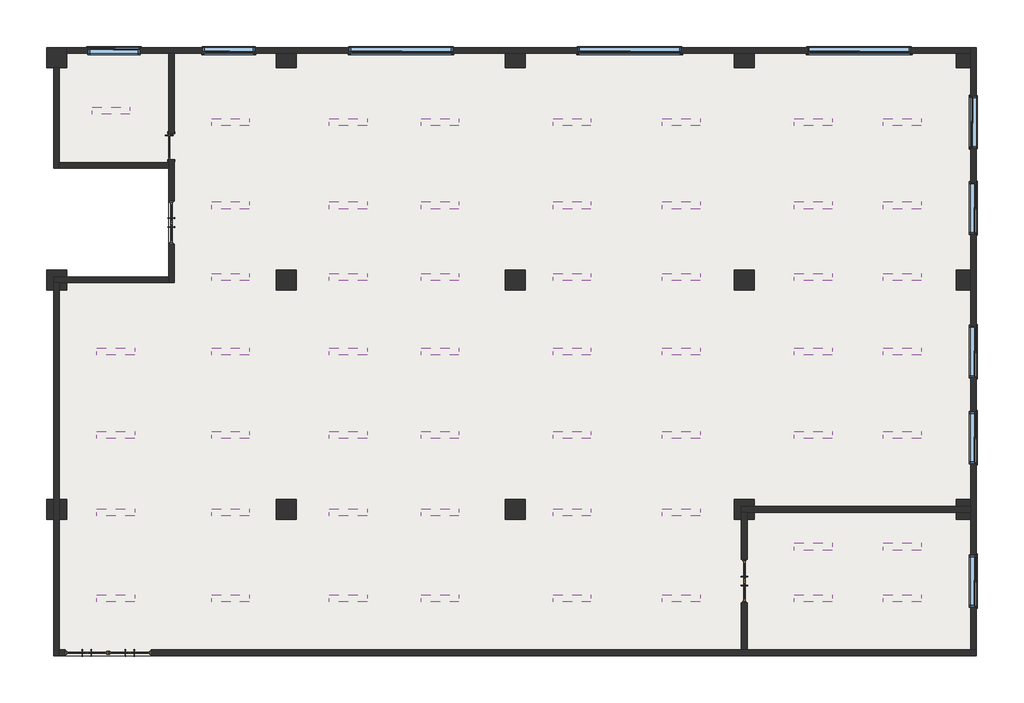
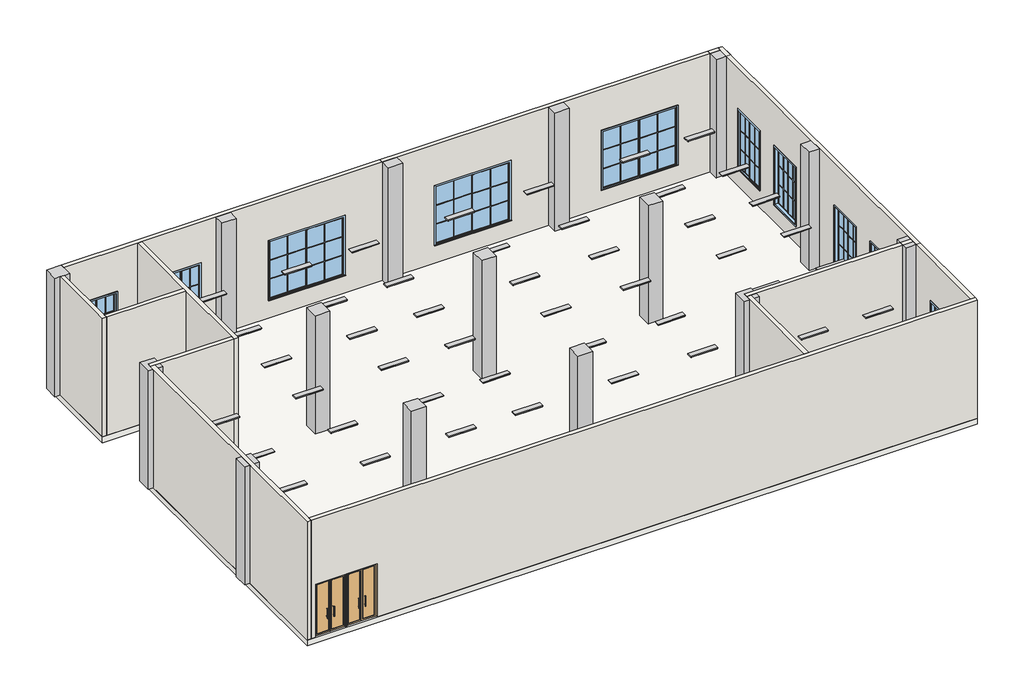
# One storey: 55 light fixtures, 15 columns, 10 walls, 10 windows, 5 doors, 1 slab.
"""IFC4 building model written with IfcOpenShell, lengths in millimetres."""

from ifc_helpers import new_model, si_unit, frame, origin, origin_with_axes, place, context, project, spatial, polyline, outline, extrude, faceted_brep, transform, mapped, element, save
from components import column_700_x_700mm_5b022033, door_1500_x_2700mm_e6651a72, door_900_x_2100mm_13c7b5d6, light_fixture_8ba9b709, window_1800_x3000mm_e18a544e, window_3600_x3000mm_248adb31

model = new_model("IFC4")

# Units and contexts
model_context = context("Model", 3, world=origin())
ifc_project = project(units=[si_unit("LENGTHUNIT", "METRE", prefix="MILLI")], contexts=[model_context])

# Site, building, storey
site = spatial("IfcSite", under=ifc_project)
building = spatial("IfcBuilding", under=site)
storey = spatial("IfcBuildingStorey", under=building, Name="标高 1", Elevation=0.0)

# Columns
placement = place(None, origin())
element("IfcColumn", 1, ObjectType="混凝土 - 矩形 - 柱 : 700 x 700mm", at=placement, inside=storey, context=model_context, shape_type="Brep", body=[
    faceted_brep([(-5936.1831848, 16216.5291826, 0.0), (-5936.1831848, 16016.5291826, 0.0), (-5936.1831848, 15516.5291826, 0.0), (-6186.1831848, 15516.5291826, 0.0), (-6386.1831848, 15516.5291826, 0.0), (-6636.1831848, 15516.5291826, 0.0), (-6636.1831848, 16216.5291826, 0.0), (-5936.1831848, 16216.5291826, 6000.0), (-5936.1831848, 16016.5291826, 6000.0), (-5936.1831848, 15516.5291826, 6000.0), (-6186.1831848, 15516.5291826, 6000.0), (-6386.1831848, 15516.5291826, 6000.0), (-6636.1831848, 15516.5291826, 6000.0), (-6636.1831848, 16216.5291826, 6000.0)], [[[0, 1, 2, 3, 4, 5, 6]], [[7, 8, 9, 2, 1, 0]], [[9, 10, 11, 12, 5, 4, 3, 2]], [[12, 13, 6, 5]], [[13, 7, 0, 6]], [[7, 13, 12, 11, 10, 9, 8]]]),
])
column_700_x_700mm_shape = column_700_x_700mm_5b022033(model_context)
element("IfcColumn", 2, ObjectType="混凝土 - 矩形 - 柱 : 700 x 700mm", at=placement, inside=storey, context=model_context, shape_type="MappedRepresentation", body=[
    mapped(column_700_x_700mm_shape, transform((9694.3292173, 15866.5291826, 0.0), x_axis=(1.0, 0.0, 0.0), y_axis=(0.0, 1.0, 0.0), z_axis=(0.0, 0.0, 1.0))),
])
element("IfcColumn", 3, ObjectType="混凝土 - 矩形 - 柱 : 700 x 700mm", at=placement, inside=storey, context=model_context, shape_type="MappedRepresentation", body=[
    mapped(column_700_x_700mm_shape, transform((17674.8416194, 15866.5291826, 0.0), x_axis=(1.0, 0.0, 0.0), y_axis=(0.0, 1.0, 0.0), z_axis=(0.0, 0.0, 1.0))),
])
element("IfcColumn", 4, ObjectType="混凝土 - 矩形 - 柱 : 700 x 700mm", at=placement, inside=storey, context=model_context, shape_type="MappedRepresentation", body=[
    mapped(column_700_x_700mm_shape, transform((25405.3540214, 15866.5291826, 0.0), x_axis=(1.0, 0.0, 0.0), y_axis=(0.0, 1.0, 0.0), z_axis=(0.0, 0.0, 1.0))),
])
element("IfcColumn", 5, ObjectType="混凝土 - 矩形 - 柱 : 700 x 700mm", at=placement, inside=storey, context=model_context, shape_type="MappedRepresentation", body=[
    mapped(column_700_x_700mm_shape, transform((-6286.1831848, 8118.9658746, 0.0), x_axis=(1.0, 0.0, 0.0), y_axis=(0.0, 1.0, 0.0), z_axis=(0.0, 0.0, 1.0))),
])
element("IfcColumn", 6, ObjectType="混凝土 - 矩形 - 柱 : 700 x 700mm", at=placement, inside=storey, context=model_context, shape_type="MappedRepresentation", body=[
    mapped(column_700_x_700mm_shape, transform((1713.8168152, 8118.9658746, 0.0), x_axis=(1.0, 0.0, 0.0), y_axis=(0.0, 1.0, 0.0), z_axis=(0.0, 0.0, 1.0))),
])
element("IfcColumn", 7, ObjectType="混凝土 - 矩形 - 柱 : 700 x 700mm", at=placement, inside=storey, context=model_context, shape_type="MappedRepresentation", body=[
    mapped(column_700_x_700mm_shape, transform((9694.3292173, 8118.9658746, 0.0), x_axis=(1.0, 0.0, 0.0), y_axis=(0.0, 1.0, 0.0), z_axis=(0.0, 0.0, 1.0))),
])
element("IfcColumn", 8, ObjectType="混凝土 - 矩形 - 柱 : 700 x 700mm", at=placement, inside=storey, context=model_context, shape_type="MappedRepresentation", body=[
    mapped(column_700_x_700mm_shape, transform((17674.8416194, 8118.9658746, 0.0), x_axis=(1.0, 0.0, 0.0), y_axis=(0.0, 1.0, 0.0), z_axis=(0.0, 0.0, 1.0))),
])
element("IfcColumn", 9, ObjectType="混凝土 - 矩形 - 柱 : 700 x 700mm", at=placement, inside=storey, context=model_context, shape_type="MappedRepresentation", body=[
    mapped(column_700_x_700mm_shape, transform((25405.3540214, 8118.9658746, 0.0), x_axis=(1.0, 0.0, 0.0), y_axis=(0.0, 1.0, 0.0), z_axis=(0.0, 0.0, 1.0))),
])
element("IfcColumn", 10, ObjectType="混凝土 - 矩形 - 柱 : 700 x 700mm", at=placement, inside=storey, context=model_context, shape_type="MappedRepresentation", body=[
    mapped(column_700_x_700mm_shape, transform((-6286.1831848, 118.9658746, 0.0), x_axis=(1.0, 0.0, 0.0), y_axis=(0.0, 1.0, 0.0), z_axis=(0.0, 0.0, 1.0))),
])
element("IfcColumn", 11, ObjectType="混凝土 - 矩形 - 柱 : 700 x 700mm", at=placement, inside=storey, context=model_context, shape_type="MappedRepresentation", body=[
    mapped(column_700_x_700mm_shape, transform((1713.8168152, 118.9658746, 0.0), x_axis=(1.0, 0.0, 0.0), y_axis=(0.0, 1.0, 0.0), z_axis=(0.0, 0.0, 1.0))),
])
element("IfcColumn", 12, ObjectType="混凝土 - 矩形 - 柱 : 700 x 700mm", at=placement, inside=storey, context=model_context, shape_type="MappedRepresentation", body=[
    mapped(column_700_x_700mm_shape, transform((9694.3292173, 118.9658746, 0.0), x_axis=(1.0, 0.0, 0.0), y_axis=(0.0, 1.0, 0.0), z_axis=(0.0, 0.0, 1.0))),
])
element("IfcColumn", 13, ObjectType="混凝土 - 矩形 - 柱 : 700 x 700mm", at=placement, inside=storey, context=model_context, shape_type="MappedRepresentation", body=[
    mapped(column_700_x_700mm_shape, transform((17674.8416194, 118.9658746, 0.0), x_axis=(1.0, 0.0, 0.0), y_axis=(0.0, 1.0, 0.0), z_axis=(0.0, 0.0, 1.0))),
])
element("IfcColumn", 14, ObjectType="混凝土 - 矩形 - 柱 : 700 x 700mm", at=placement, inside=storey, context=model_context, shape_type="MappedRepresentation", body=[
    mapped(column_700_x_700mm_shape, transform((25405.3540214, 118.9658746, 0.0), x_axis=(1.0, 0.0, 0.0), y_axis=(0.0, 1.0, 0.0), z_axis=(0.0, 0.0, 1.0))),
])
element("IfcColumn", 15, ObjectType="混凝土 - 矩形 - 柱 : 700 x 700mm", at=placement, inside=storey, context=model_context, shape_type="MappedRepresentation", body=[
    mapped(column_700_x_700mm_shape, transform((1713.8168152, 15866.5291826, 0.0), x_axis=(1.0, 0.0, 0.0), y_axis=(0.0, 1.0, 0.0), z_axis=(0.0, 0.0, 1.0))),
])

# Doors
door_1500_x_2700mm_shape = door_1500_x_2700mm_e6651a72(model_context)
element("IfcDoor", 16, ObjectType="双面嵌板玻璃门 : 1500 x 2700mm", at=placement, inside=storey, context=model_context, shape_type="MappedRepresentation", body=[
    mapped(door_1500_x_2700mm_shape, transform((-2286.1831848, 10117.7475286, 0.0), x_axis=(0.0, 1.0, 0.0), y_axis=(-1.0, 0.0, 0.0), z_axis=(0.0, 0.0, 1.0))),
])
element("IfcDoor", 17, ObjectType="双面嵌板玻璃门 : 1500 x 2700mm", at=placement, inside=storey, context=model_context, shape_type="MappedRepresentation", body=[
    mapped(door_1500_x_2700mm_shape, transform((-5236.1831848, -4881.0341254, 0.0), x_axis=(-1.0, 0.0, 0.0), y_axis=(0.0, -1.0, 0.0), z_axis=(0.0, 0.0, 1.0))),
])
element("IfcDoor", 18, ObjectType="双面嵌板玻璃门 : 1500 x 2700mm", at=placement, inside=storey, context=model_context, shape_type="MappedRepresentation", body=[
    mapped(door_1500_x_2700mm_shape, transform((-3736.1831848, -4881.0341254, 0.0), x_axis=(-1.0, 0.0, 0.0), y_axis=(0.0, -1.0, 0.0), z_axis=(0.0, 0.0, 1.0))),
])
element("IfcDoor", 19, ObjectType="双面嵌板玻璃门 : 1500 x 2700mm", at=placement, inside=storey, context=model_context, shape_type="MappedRepresentation", body=[
    mapped(door_1500_x_2700mm_shape, transform((17674.8416194, -2381.0341254, 0.0), x_axis=(0.0, 1.0, 0.0), y_axis=(-1.0, 0.0, 0.0), z_axis=(0.0, 0.0, 1.0))),
])
door_900_x_2100mm_shape = door_900_x_2100mm_13c7b5d6(model_context)
element("IfcDoor", 20, ObjectType="单嵌板玻璃门 1 : 900 x 2100mm", at=placement, inside=storey, context=model_context, shape_type="MappedRepresentation", body=[
    mapped(door_900_x_2100mm_shape, transform((-2286.1831848, 12766.5291826, 0.0), x_axis=(0.0, 1.0, 0.0), y_axis=(-1.0, 0.0, 0.0), z_axis=(0.0, 0.0, 1.0))),
])

# Light fixtures
light_fixture_shape = light_fixture_8ba9b709(model_context)
element("IfcLightFixture", 21, ObjectType="双管吸顶式灯具 - T8 : 36 W - 2 盏灯", at=placement, inside=storey, context=model_context, shape_type="MappedRepresentation", body=[
    mapped(light_fixture_shape, transform((-4386.1831848, 14016.5291826, 4000.0), x_axis=(1.0, 0.0, 0.0), y_axis=(0.0, -1.0, 0.0), z_axis=(0.0, 0.0, -1.0))),
])
element("IfcLightFixture", 22, ObjectType="双管吸顶式灯具 - T8 : 36 W - 2 盏灯", at=placement, inside=storey, context=model_context, shape_type="MappedRepresentation", body=[
    mapped(light_fixture_shape, transform((-225.1583806, 13616.5291826, 4000.0), x_axis=(1.0, 0.0, 0.0), y_axis=(0.0, -1.0, 0.0), z_axis=(0.0, 0.0, -1.0))),
])
element("IfcLightFixture", 23, ObjectType="双管吸顶式灯具 - T8 : 36 W - 2 盏灯", at=placement, inside=storey, context=model_context, shape_type="MappedRepresentation", body=[
    mapped(light_fixture_shape, transform((-225.1583806, 10718.9658746, 4000.0), x_axis=(1.0, 0.0, 0.0), y_axis=(0.0, -1.0, 0.0), z_axis=(0.0, 0.0, -1.0))),
])
element("IfcLightFixture", 24, ObjectType="双管吸顶式灯具 - T8 : 36 W - 2 盏灯", at=placement, inside=storey, context=model_context, shape_type="MappedRepresentation", body=[
    mapped(light_fixture_shape, transform((-225.1583806, 8218.9658746, 4000.0), x_axis=(1.0, 0.0, 0.0), y_axis=(0.0, -1.0, 0.0), z_axis=(0.0, 0.0, -1.0))),
])
element("IfcLightFixture", 25, ObjectType="双管吸顶式灯具 - T8 : 36 W - 2 盏灯", at=placement, inside=storey, context=model_context, shape_type="MappedRepresentation", body=[
    mapped(light_fixture_shape, transform((-225.1583806, 5618.9658746, 4000.0), x_axis=(1.0, 0.0, 0.0), y_axis=(0.0, -1.0, 0.0), z_axis=(0.0, 0.0, -1.0))),
])
element("IfcLightFixture", 26, ObjectType="双管吸顶式灯具 - T8 : 36 W - 2 盏灯", at=placement, inside=storey, context=model_context, shape_type="MappedRepresentation", body=[
    mapped(light_fixture_shape, transform((-225.1583806, 2718.9658746, 4000.0), x_axis=(1.0, 0.0, 0.0), y_axis=(0.0, -1.0, 0.0), z_axis=(0.0, 0.0, -1.0))),
])
element("IfcLightFixture", 27, ObjectType="双管吸顶式灯具 - T8 : 36 W - 2 盏灯", at=placement, inside=storey, context=model_context, shape_type="MappedRepresentation", body=[
    mapped(light_fixture_shape, transform((-225.1583806, 18.9658746, 4000.0), x_axis=(1.0, 0.0, 0.0), y_axis=(0.0, -1.0, 0.0), z_axis=(0.0, 0.0, -1.0))),
])
element("IfcLightFixture", 28, ObjectType="双管吸顶式灯具 - T8 : 36 W - 2 盏灯", at=placement, inside=storey, context=model_context, shape_type="MappedRepresentation", body=[
    mapped(light_fixture_shape, transform((-225.1583806, -2981.0341254, 4000.0), x_axis=(1.0, 0.0, 0.0), y_axis=(0.0, -1.0, 0.0), z_axis=(0.0, 0.0, -1.0))),
])
element("IfcLightFixture", 29, ObjectType="双管吸顶式灯具 - T8 : 36 W - 2 盏灯", at=placement, inside=storey, context=model_context, shape_type="MappedRepresentation", body=[
    mapped(light_fixture_shape, transform((20074.8416194, -2981.0341254, 4000.0), x_axis=(1.0, 0.0, 0.0), y_axis=(0.0, -1.0, 0.0), z_axis=(0.0, 0.0, -1.0))),
])
element("IfcLightFixture", 30, ObjectType="双管吸顶式灯具 - T8 : 36 W - 2 盏灯", at=placement, inside=storey, context=model_context, shape_type="MappedRepresentation", body=[
    mapped(light_fixture_shape, transform((23174.8416194, -2981.0341254, 4000.0), x_axis=(1.0, 0.0, 0.0), y_axis=(0.0, -1.0, 0.0), z_axis=(0.0, 0.0, -1.0))),
])
element("IfcLightFixture", 31, ObjectType="双管吸顶式灯具 - T8 : 36 W - 2 盏灯", at=placement, inside=storey, context=model_context, shape_type="MappedRepresentation", body=[
    mapped(light_fixture_shape, transform((20074.8416194, -1181.0341254, 4000.0), x_axis=(1.0, 0.0, 0.0), y_axis=(0.0, -1.0, 0.0), z_axis=(0.0, 0.0, -1.0))),
])
element("IfcLightFixture", 32, ObjectType="双管吸顶式灯具 - T8 : 36 W - 2 盏灯", at=placement, inside=storey, context=model_context, shape_type="MappedRepresentation", body=[
    mapped(light_fixture_shape, transform((23174.8416194, -1181.0341254, 4000.0), x_axis=(1.0, 0.0, 0.0), y_axis=(0.0, -1.0, 0.0), z_axis=(0.0, 0.0, -1.0))),
])
element("IfcLightFixture", 33, ObjectType="双管吸顶式灯具 - T8 : 36 W - 2 盏灯", at=placement, inside=storey, context=model_context, shape_type="MappedRepresentation", body=[
    mapped(light_fixture_shape, transform((3874.8416194, 13616.5291826, 4000.0), x_axis=(1.0, 0.0, 0.0), y_axis=(0.0, -1.0, 0.0), z_axis=(0.0, 0.0, -1.0))),
])
element("IfcLightFixture", 34, ObjectType="双管吸顶式灯具 - T8 : 36 W - 2 盏灯", at=placement, inside=storey, context=model_context, shape_type="MappedRepresentation", body=[
    mapped(light_fixture_shape, transform((3874.8416194, 10718.9658746, 4000.0), x_axis=(1.0, 0.0, 0.0), y_axis=(0.0, -1.0, 0.0), z_axis=(0.0, 0.0, -1.0))),
])
element("IfcLightFixture", 35, ObjectType="双管吸顶式灯具 - T8 : 36 W - 2 盏灯", at=placement, inside=storey, context=model_context, shape_type="MappedRepresentation", body=[
    mapped(light_fixture_shape, transform((3874.8416194, 8218.9658746, 4000.0), x_axis=(1.0, 0.0, 0.0), y_axis=(0.0, -1.0, 0.0), z_axis=(0.0, 0.0, -1.0))),
])
element("IfcLightFixture", 36, ObjectType="双管吸顶式灯具 - T8 : 36 W - 2 盏灯", at=placement, inside=storey, context=model_context, shape_type="MappedRepresentation", body=[
    mapped(light_fixture_shape, transform((3874.8416194, 5618.9658746, 4000.0), x_axis=(1.0, 0.0, 0.0), y_axis=(0.0, -1.0, 0.0), z_axis=(0.0, 0.0, -1.0))),
])
element("IfcLightFixture", 37, ObjectType="双管吸顶式灯具 - T8 : 36 W - 2 盏灯", at=placement, inside=storey, context=model_context, shape_type="MappedRepresentation", body=[
    mapped(light_fixture_shape, transform((3874.8416194, 2718.9658746, 4000.0), x_axis=(1.0, 0.0, 0.0), y_axis=(0.0, -1.0, 0.0), z_axis=(0.0, 0.0, -1.0))),
])
element("IfcLightFixture", 38, ObjectType="双管吸顶式灯具 - T8 : 36 W - 2 盏灯", at=placement, inside=storey, context=model_context, shape_type="MappedRepresentation", body=[
    mapped(light_fixture_shape, transform((3874.8416194, 18.9658746, 4000.0), x_axis=(1.0, 0.0, 0.0), y_axis=(0.0, -1.0, 0.0), z_axis=(0.0, 0.0, -1.0))),
])
element("IfcLightFixture", 39, ObjectType="双管吸顶式灯具 - T8 : 36 W - 2 盏灯", at=placement, inside=storey, context=model_context, shape_type="MappedRepresentation", body=[
    mapped(light_fixture_shape, transform((3874.8416194, -2981.0341254, 4000.0), x_axis=(1.0, 0.0, 0.0), y_axis=(0.0, -1.0, 0.0), z_axis=(0.0, 0.0, -1.0))),
])
element("IfcLightFixture", 40, ObjectType="双管吸顶式灯具 - T8 : 36 W - 2 盏灯", at=placement, inside=storey, context=model_context, shape_type="MappedRepresentation", body=[
    mapped(light_fixture_shape, transform((7074.8416194, 13616.5291826, 4000.0), x_axis=(1.0, 0.0, 0.0), y_axis=(0.0, -1.0, 0.0), z_axis=(0.0, 0.0, -1.0))),
])
element("IfcLightFixture", 41, ObjectType="双管吸顶式灯具 - T8 : 36 W - 2 盏灯", at=placement, inside=storey, context=model_context, shape_type="MappedRepresentation", body=[
    mapped(light_fixture_shape, transform((7074.8416194, 10718.9658746, 4000.0), x_axis=(1.0, 0.0, 0.0), y_axis=(0.0, -1.0, 0.0), z_axis=(0.0, 0.0, -1.0))),
])
element("IfcLightFixture", 42, ObjectType="双管吸顶式灯具 - T8 : 36 W - 2 盏灯", at=placement, inside=storey, context=model_context, shape_type="MappedRepresentation", body=[
    mapped(light_fixture_shape, transform((7074.8416194, 8218.9658746, 4000.0), x_axis=(1.0, 0.0, 0.0), y_axis=(0.0, -1.0, 0.0), z_axis=(0.0, 0.0, -1.0))),
])
element("IfcLightFixture", 43, ObjectType="双管吸顶式灯具 - T8 : 36 W - 2 盏灯", at=placement, inside=storey, context=model_context, shape_type="MappedRepresentation", body=[
    mapped(light_fixture_shape, transform((7074.8416194, 5618.9658746, 4000.0), x_axis=(1.0, 0.0, 0.0), y_axis=(0.0, -1.0, 0.0), z_axis=(0.0, 0.0, -1.0))),
])
element("IfcLightFixture", 44, ObjectType="双管吸顶式灯具 - T8 : 36 W - 2 盏灯", at=placement, inside=storey, context=model_context, shape_type="MappedRepresentation", body=[
    mapped(light_fixture_shape, transform((7074.8416194, 2718.9658746, 4000.0), x_axis=(1.0, 0.0, 0.0), y_axis=(0.0, -1.0, 0.0), z_axis=(0.0, 0.0, -1.0))),
])
element("IfcLightFixture", 45, ObjectType="双管吸顶式灯具 - T8 : 36 W - 2 盏灯", at=placement, inside=storey, context=model_context, shape_type="MappedRepresentation", body=[
    mapped(light_fixture_shape, transform((7074.8416194, 18.9658746, 4000.0), x_axis=(1.0, 0.0, 0.0), y_axis=(0.0, -1.0, 0.0), z_axis=(0.0, 0.0, -1.0))),
])
element("IfcLightFixture", 46, ObjectType="双管吸顶式灯具 - T8 : 36 W - 2 盏灯", at=placement, inside=storey, context=model_context, shape_type="MappedRepresentation", body=[
    mapped(light_fixture_shape, transform((7074.8416194, -2981.0341254, 4000.0), x_axis=(1.0, 0.0, 0.0), y_axis=(0.0, -1.0, 0.0), z_axis=(0.0, 0.0, -1.0))),
])
element("IfcLightFixture", 47, ObjectType="双管吸顶式灯具 - T8 : 36 W - 2 盏灯", at=placement, inside=storey, context=model_context, shape_type="MappedRepresentation", body=[
    mapped(light_fixture_shape, transform((11674.8416194, 13616.5291826, 4000.0), x_axis=(1.0, 0.0, 0.0), y_axis=(0.0, -1.0, 0.0), z_axis=(0.0, 0.0, -1.0))),
])
element("IfcLightFixture", 48, ObjectType="双管吸顶式灯具 - T8 : 36 W - 2 盏灯", at=placement, inside=storey, context=model_context, shape_type="MappedRepresentation", body=[
    mapped(light_fixture_shape, transform((11674.8416194, 10718.9658746, 4000.0), x_axis=(1.0, 0.0, 0.0), y_axis=(0.0, -1.0, 0.0), z_axis=(0.0, 0.0, -1.0))),
])
element("IfcLightFixture", 49, ObjectType="双管吸顶式灯具 - T8 : 36 W - 2 盏灯", at=placement, inside=storey, context=model_context, shape_type="MappedRepresentation", body=[
    mapped(light_fixture_shape, transform((11674.8416194, 8218.9658746, 4000.0), x_axis=(1.0, 0.0, 0.0), y_axis=(0.0, -1.0, 0.0), z_axis=(0.0, 0.0, -1.0))),
])
element("IfcLightFixture", 50, ObjectType="双管吸顶式灯具 - T8 : 36 W - 2 盏灯", at=placement, inside=storey, context=model_context, shape_type="MappedRepresentation", body=[
    mapped(light_fixture_shape, transform((11674.8416194, 5618.9658746, 4000.0), x_axis=(1.0, 0.0, 0.0), y_axis=(0.0, -1.0, 0.0), z_axis=(0.0, 0.0, -1.0))),
])
element("IfcLightFixture", 51, ObjectType="双管吸顶式灯具 - T8 : 36 W - 2 盏灯", at=placement, inside=storey, context=model_context, shape_type="MappedRepresentation", body=[
    mapped(light_fixture_shape, transform((11674.8416194, 2718.9658746, 4000.0), x_axis=(1.0, 0.0, 0.0), y_axis=(0.0, -1.0, 0.0), z_axis=(0.0, 0.0, -1.0))),
])
element("IfcLightFixture", 52, ObjectType="双管吸顶式灯具 - T8 : 36 W - 2 盏灯", at=placement, inside=storey, context=model_context, shape_type="MappedRepresentation", body=[
    mapped(light_fixture_shape, transform((11674.8416194, 18.9658746, 4000.0), x_axis=(1.0, 0.0, 0.0), y_axis=(0.0, -1.0, 0.0), z_axis=(0.0, 0.0, -1.0))),
])
element("IfcLightFixture", 53, ObjectType="双管吸顶式灯具 - T8 : 36 W - 2 盏灯", at=placement, inside=storey, context=model_context, shape_type="MappedRepresentation", body=[
    mapped(light_fixture_shape, transform((11674.8416194, -2981.0341254, 4000.0), x_axis=(1.0, 0.0, 0.0), y_axis=(0.0, -1.0, 0.0), z_axis=(0.0, 0.0, -1.0))),
])
element("IfcLightFixture", 54, ObjectType="双管吸顶式灯具 - T8 : 36 W - 2 盏灯", at=placement, inside=storey, context=model_context, shape_type="MappedRepresentation", body=[
    mapped(light_fixture_shape, transform((15474.8416194, 13616.5291826, 4000.0), x_axis=(1.0, 0.0, 0.0), y_axis=(0.0, -1.0, 0.0), z_axis=(0.0, 0.0, -1.0))),
])
element("IfcLightFixture", 55, ObjectType="双管吸顶式灯具 - T8 : 36 W - 2 盏灯", at=placement, inside=storey, context=model_context, shape_type="MappedRepresentation", body=[
    mapped(light_fixture_shape, transform((15474.8416194, 10718.9658746, 4000.0), x_axis=(1.0, 0.0, 0.0), y_axis=(0.0, -1.0, 0.0), z_axis=(0.0, 0.0, -1.0))),
])
element("IfcLightFixture", 56, ObjectType="双管吸顶式灯具 - T8 : 36 W - 2 盏灯", at=placement, inside=storey, context=model_context, shape_type="MappedRepresentation", body=[
    mapped(light_fixture_shape, transform((15474.8416194, 8218.9658746, 4000.0), x_axis=(1.0, 0.0, 0.0), y_axis=(0.0, -1.0, 0.0), z_axis=(0.0, 0.0, -1.0))),
])
element("IfcLightFixture", 57, ObjectType="双管吸顶式灯具 - T8 : 36 W - 2 盏灯", at=placement, inside=storey, context=model_context, shape_type="MappedRepresentation", body=[
    mapped(light_fixture_shape, transform((15474.8416194, 5618.9658746, 4000.0), x_axis=(1.0, 0.0, 0.0), y_axis=(0.0, -1.0, 0.0), z_axis=(0.0, 0.0, -1.0))),
])
element("IfcLightFixture", 58, ObjectType="双管吸顶式灯具 - T8 : 36 W - 2 盏灯", at=placement, inside=storey, context=model_context, shape_type="MappedRepresentation", body=[
    mapped(light_fixture_shape, transform((15474.8416194, 2718.9658746, 4000.0), x_axis=(1.0, 0.0, 0.0), y_axis=(0.0, -1.0, 0.0), z_axis=(0.0, 0.0, -1.0))),
])
element("IfcLightFixture", 59, ObjectType="双管吸顶式灯具 - T8 : 36 W - 2 盏灯", at=placement, inside=storey, context=model_context, shape_type="MappedRepresentation", body=[
    mapped(light_fixture_shape, transform((15474.8416194, 18.9658746, 4000.0), x_axis=(1.0, 0.0, 0.0), y_axis=(0.0, -1.0, 0.0), z_axis=(0.0, 0.0, -1.0))),
])
element("IfcLightFixture", 60, ObjectType="双管吸顶式灯具 - T8 : 36 W - 2 盏灯", at=placement, inside=storey, context=model_context, shape_type="MappedRepresentation", body=[
    mapped(light_fixture_shape, transform((15474.8416194, -2981.0341254, 4000.0), x_axis=(1.0, 0.0, 0.0), y_axis=(0.0, -1.0, 0.0), z_axis=(0.0, 0.0, -1.0))),
])
element("IfcLightFixture", 61, ObjectType="双管吸顶式灯具 - T8 : 36 W - 2 盏灯", at=placement, inside=storey, context=model_context, shape_type="MappedRepresentation", body=[
    mapped(light_fixture_shape, transform((20074.8416194, 13616.5291826, 4000.0), x_axis=(1.0, 0.0, 0.0), y_axis=(0.0, -1.0, 0.0), z_axis=(0.0, 0.0, -1.0))),
])
element("IfcLightFixture", 62, ObjectType="双管吸顶式灯具 - T8 : 36 W - 2 盏灯", at=placement, inside=storey, context=model_context, shape_type="MappedRepresentation", body=[
    mapped(light_fixture_shape, transform((20074.8416194, 10718.9658746, 4000.0), x_axis=(1.0, 0.0, 0.0), y_axis=(0.0, -1.0, 0.0), z_axis=(0.0, 0.0, -1.0))),
])
element("IfcLightFixture", 63, ObjectType="双管吸顶式灯具 - T8 : 36 W - 2 盏灯", at=placement, inside=storey, context=model_context, shape_type="MappedRepresentation", body=[
    mapped(light_fixture_shape, transform((20074.8416194, 8218.9658746, 4000.0), x_axis=(1.0, 0.0, 0.0), y_axis=(0.0, -1.0, 0.0), z_axis=(0.0, 0.0, -1.0))),
])
element("IfcLightFixture", 64, ObjectType="双管吸顶式灯具 - T8 : 36 W - 2 盏灯", at=placement, inside=storey, context=model_context, shape_type="MappedRepresentation", body=[
    mapped(light_fixture_shape, transform((20074.8416194, 5618.9658746, 4000.0), x_axis=(1.0, 0.0, 0.0), y_axis=(0.0, -1.0, 0.0), z_axis=(0.0, 0.0, -1.0))),
])
element("IfcLightFixture", 65, ObjectType="双管吸顶式灯具 - T8 : 36 W - 2 盏灯", at=placement, inside=storey, context=model_context, shape_type="MappedRepresentation", body=[
    mapped(light_fixture_shape, transform((20074.8416194, 2718.9658746, 4000.0), x_axis=(1.0, 0.0, 0.0), y_axis=(0.0, -1.0, 0.0), z_axis=(0.0, 0.0, -1.0))),
])
element("IfcLightFixture", 66, ObjectType="双管吸顶式灯具 - T8 : 36 W - 2 盏灯", at=placement, inside=storey, context=model_context, shape_type="MappedRepresentation", body=[
    mapped(light_fixture_shape, transform((20074.8416194, -1181.0341254, 4000.0), x_axis=(1.0, 0.0, 0.0), y_axis=(0.0, -1.0, 0.0), z_axis=(0.0, 0.0, -1.0))),
])
element("IfcLightFixture", 67, ObjectType="双管吸顶式灯具 - T8 : 36 W - 2 盏灯", at=placement, inside=storey, context=model_context, shape_type="MappedRepresentation", body=[
    mapped(light_fixture_shape, transform((23174.8416194, 13616.5291826, 4000.0), x_axis=(1.0, 0.0, 0.0), y_axis=(0.0, -1.0, 0.0), z_axis=(0.0, 0.0, -1.0))),
])
element("IfcLightFixture", 68, ObjectType="双管吸顶式灯具 - T8 : 36 W - 2 盏灯", at=placement, inside=storey, context=model_context, shape_type="MappedRepresentation", body=[
    mapped(light_fixture_shape, transform((23174.8416194, 10718.9658746, 4000.0), x_axis=(1.0, 0.0, 0.0), y_axis=(0.0, -1.0, 0.0), z_axis=(0.0, 0.0, -1.0))),
])
element("IfcLightFixture", 69, ObjectType="双管吸顶式灯具 - T8 : 36 W - 2 盏灯", at=placement, inside=storey, context=model_context, shape_type="MappedRepresentation", body=[
    mapped(light_fixture_shape, transform((23174.8416194, 8218.9658746, 4000.0), x_axis=(1.0, 0.0, 0.0), y_axis=(0.0, -1.0, 0.0), z_axis=(0.0, 0.0, -1.0))),
])
element("IfcLightFixture", 70, ObjectType="双管吸顶式灯具 - T8 : 36 W - 2 盏灯", at=placement, inside=storey, context=model_context, shape_type="MappedRepresentation", body=[
    mapped(light_fixture_shape, transform((23174.8416194, 5618.9658746, 4000.0), x_axis=(1.0, 0.0, 0.0), y_axis=(0.0, -1.0, 0.0), z_axis=(0.0, 0.0, -1.0))),
])
element("IfcLightFixture", 71, ObjectType="双管吸顶式灯具 - T8 : 36 W - 2 盏灯", at=placement, inside=storey, context=model_context, shape_type="MappedRepresentation", body=[
    mapped(light_fixture_shape, transform((23174.8416194, 2718.9658746, 4000.0), x_axis=(1.0, 0.0, 0.0), y_axis=(0.0, -1.0, 0.0), z_axis=(0.0, 0.0, -1.0))),
])
element("IfcLightFixture", 72, ObjectType="双管吸顶式灯具 - T8 : 36 W - 2 盏灯", at=placement, inside=storey, context=model_context, shape_type="MappedRepresentation", body=[
    mapped(light_fixture_shape, transform((-4225.1583806, 5618.9658746, 4000.0), x_axis=(1.0, 0.0, 0.0), y_axis=(0.0, -1.0, 0.0), z_axis=(0.0, 0.0, -1.0))),
])
element("IfcLightFixture", 73, ObjectType="双管吸顶式灯具 - T8 : 36 W - 2 盏灯", at=placement, inside=storey, context=model_context, shape_type="MappedRepresentation", body=[
    mapped(light_fixture_shape, transform((-4225.1583806, 2718.9658746, 4000.0), x_axis=(1.0, 0.0, 0.0), y_axis=(0.0, -1.0, 0.0), z_axis=(0.0, 0.0, -1.0))),
])
element("IfcLightFixture", 74, ObjectType="双管吸顶式灯具 - T8 : 36 W - 2 盏灯", at=placement, inside=storey, context=model_context, shape_type="MappedRepresentation", body=[
    mapped(light_fixture_shape, transform((-4225.1583806, 18.9658746, 4000.0), x_axis=(1.0, 0.0, 0.0), y_axis=(0.0, -1.0, 0.0), z_axis=(0.0, 0.0, -1.0))),
])
element("IfcLightFixture", 75, ObjectType="双管吸顶式灯具 - T8 : 36 W - 2 盏灯", at=placement, inside=storey, context=model_context, shape_type="MappedRepresentation", body=[
    mapped(light_fixture_shape, transform((-4225.1583806, -2981.0341254, 4000.0), x_axis=(1.0, 0.0, 0.0), y_axis=(0.0, -1.0, 0.0), z_axis=(0.0, 0.0, -1.0))),
])

# Slab
element("IfcSlab", 76, ObjectType="常规 - 300mm", at=placement, inside=storey, context=model_context, shape_type="SweptSolid", body=[
    extrude(outline(polyline([(-6386.1831848, 16216.5291826), (25755.3540214, 16216.5291826), (25755.3540214, -4981.0341254), (-6386.1831848, -4981.0341254), (-6386.1831848, 8218.9658746), (-2386.1831848, 8218.9658746), (-2386.1831848, 12016.5291826), (-6386.1831848, 12016.5291826), (-6386.1831848, 16216.5291826)])), frame((0.0, 0.0, -300.0), z_axis=(0.0, 0.0, 1.0), x_axis=(1.0, 0.0, 0.0)), (0.0, 0.0, 1.0), 300.0),
])

# Walls
element("IfcWall", 77, ObjectType="常规 - 200mm", at=placement, inside=storey, context=model_context, shape_type="Brep", body=[
    faceted_brep([(-6386.1831848, 12016.5291826, 0.0), (-6386.1831848, 12016.5291826, 6000.0), (-6386.1831848, 15516.5291826, 6000.0), (-6386.1831848, 15516.5291826, 0.0), (-6186.1831848, 12016.5291826, 6000.0), (-6186.1831848, 12016.5291826, 0.0), (-6186.1831848, 12216.5291826, 0.0), (-6186.1831848, 15516.5291826, 0.0), (-6186.1831848, 15516.5291826, 6000.0), (-6186.1831848, 12216.5291826, 6000.0)], [[[0, 1, 2, 3]], [[4, 5, 6, 7, 8, 9]], [[5, 0, 3, 7, 6]], [[1, 4, 9, 8, 2]], [[1, 0, 5, 4]], [[3, 2, 8, 7]]]),
])
element("IfcWall", 78, ObjectType="常规 - 200mm", at=placement, inside=storey, context=model_context, shape_type="SweptSolid", body=[
    extrude(outline(polyline([(-2386.1831848, 12016.5291826), (-6186.1831848, 12016.5291826), (-6186.1831848, 12216.5291826), (-2386.1831848, 12216.5291826), (-2386.1831848, 12016.5291826)])), origin_with_axes(), (0.0, 0.0, 1.0), 6000.0),
])
element("IfcWall", 79, ObjectType="常规 - 200mm", at=placement, inside=storey, context=model_context, shape_type="Brep", body=[
    faceted_brep([(-2386.1831848, 8018.9658746, 6000.0), (-2386.1831848, 8218.9658746, 6000.0), (-2386.1831848, 12016.5291826, 6000.0), (-2386.1831848, 12216.5291826, 6000.0), (-2386.1831848, 16016.5291826, 6000.0), (-2386.1831848, 16016.5291826, 0.0), (-2386.1831848, 13216.5291826, 0.0), (-2386.1831848, 13216.5291826, 2100.0), (-2386.1831848, 12316.5291826, 2100.0), (-2386.1831848, 12316.5291826, 0.0), (-2386.1831848, 12216.5291826, 0.0), (-2386.1831848, 12016.5291826, 0.0), (-2386.1831848, 10867.7475286, 0.0), (-2386.1831848, 10867.7475286, 2700.0), (-2386.1831848, 9367.7475286, 2700.0), (-2386.1831848, 9367.7475286, 0.0), (-2386.1831848, 8218.9658746, 0.0), (-2386.1831848, 8018.9658746, 0.0), (-2186.1831848, 16016.5291826, 6000.0), (-2186.1831848, 8018.9658746, 6000.0), (-2186.1831848, 8018.9658746, 0.0), (-2186.1831848, 9367.7475286, 0.0), (-2186.1831848, 9367.7475286, 2700.0), (-2186.1831848, 10867.7475286, 2700.0), (-2186.1831848, 10867.7475286, 0.0), (-2186.1831848, 12316.5291826, 0.0), (-2186.1831848, 12316.5291826, 2100.0), (-2186.1831848, 13216.5291826, 2100.0), (-2186.1831848, 13216.5291826, 0.0), (-2186.1831848, 16016.5291826, 0.0)], [[[0, 1, 2, 3, 4, 5, 6, 7, 8, 9, 10, 11, 12, 13, 14, 15, 16, 17]], [[18, 19, 20, 21, 22, 23, 24, 25, 26, 27, 28, 29]], [[20, 17, 16, 15, 21]], [[5, 29, 28, 6]], [[9, 25, 24, 12, 11, 10]], [[4, 3, 2, 1, 0, 19, 18]], [[0, 17, 20, 19]], [[5, 4, 18, 29]], [[7, 6, 28, 27]], [[8, 7, 27, 26]], [[9, 8, 26, 25]], [[23, 13, 12, 24]], [[13, 23, 22, 14]], [[14, 22, 21, 15]]]),
])
element("IfcWall", 80, ObjectType="常规 - 200mm", at=placement, inside=storey, context=model_context, shape_type="Brep", body=[
    faceted_brep([(-2386.1831848, 8218.9658746, 0.0), (-6386.1831848, 8218.9658746, 0.0), (-6386.1831848, 8218.9658746, 6000.0), (-2386.1831848, 8218.9658746, 6000.0), (-2386.1831848, 8018.9658746, 0.0), (-2386.1831848, 8018.9658746, 6000.0), (-6186.1831848, 8018.9658746, 6000.0), (-6386.1831848, 8018.9658746, 6000.0), (-6386.1831848, 8018.9658746, 0.0), (-6186.1831848, 8018.9658746, 0.0)], [[[0, 1, 2, 3]], [[4, 5, 6, 7, 8, 9]], [[1, 0, 4, 9, 8]], [[3, 2, 7, 6, 5]], [[0, 3, 5, 4]], [[2, 1, 8, 7]]]),
])
element("IfcWall", 81, ObjectType="常规 - 200mm", at=placement, inside=storey, context=model_context, shape_type="Brep", body=[
    faceted_brep([(-6386.1831848, 8018.9658746, 0.0), (-6386.1831848, -4981.0341254, 0.0), (-6386.1831848, -4981.0341254, 6000.0), (-6386.1831848, 8018.9658746, 6000.0), (-6186.1831848, 8018.9658746, 0.0), (-6186.1831848, 8018.9658746, 6000.0), (-6186.1831848, -4781.0341254, 6000.0), (-6186.1831848, -4981.0341254, 6000.0), (-6186.1831848, -4981.0341254, 0.0), (-6186.1831848, -4781.0341254, 0.0)], [[[0, 1, 2, 3]], [[4, 5, 6, 7, 8, 9]], [[1, 0, 4, 9, 8]], [[3, 2, 7, 6, 5]], [[0, 3, 5, 4]], [[2, 1, 8, 7]]]),
])
element("IfcWall", 82, ObjectType="常规 - 200mm", at=placement, inside=storey, context=model_context, shape_type="Brep", body=[
    faceted_brep([(25755.3540214, -4981.0341254, 6000.0), (-6186.1831848, -4981.0341254, 6000.0), (-6186.1831848, -4981.0341254, 0.0), (-5986.1831848, -4981.0341254, 0.0), (-5986.1831848, -4981.0341254, 2700.0), (-2986.1831848, -4981.0341254, 2700.0), (-2986.1831848, -4981.0341254, 0.0), (25755.3540214, -4981.0341254, 0.0), (-6186.1831848, -4781.0341254, 6000.0), (17574.8416194, -4781.0341254, 6000.0), (17774.8416194, -4781.0341254, 6000.0), (25555.3540214, -4781.0341254, 6000.0), (25755.3540214, -4781.0341254, 6000.0), (25755.3540214, -4781.0341254, 0.0), (25555.3540214, -4781.0341254, 0.0), (17774.8416194, -4781.0341254, 0.0), (17574.8416194, -4781.0341254, 0.0), (-2986.1831848, -4781.0341254, 0.0), (-2986.1831848, -4781.0341254, 2700.0), (-5986.1831848, -4781.0341254, 2700.0), (-5986.1831848, -4781.0341254, 0.0), (-6186.1831848, -4781.0341254, 0.0)], [[[0, 1, 2, 3, 4, 5, 6, 7]], [[8, 9, 10, 11, 12, 13, 14, 15, 16, 17, 18, 19, 20, 21]], [[2, 21, 20, 3]], [[13, 7, 6, 17, 16, 15, 14]], [[1, 0, 12, 11, 10, 9, 8]], [[2, 1, 8, 21]], [[0, 7, 13, 12]], [[19, 4, 3, 20]], [[4, 19, 18, 5]], [[5, 18, 17, 6]]]),
])
element("IfcWall", 83, ObjectType="常规 - 200mm", at=placement, inside=storey, context=model_context, shape_type="Brep", body=[
    faceted_brep([(25755.3540214, -4781.0341254, 0.0), (25755.3540214, 16216.5291826, 0.0), (25755.3540214, 16216.5291826, 6000.0), (25755.3540214, -4781.0341254, 6000.0), (25755.3540214, 14516.5291826, 3900.0), (25755.3540214, 14516.5291826, 900.0), (25755.3540214, 12716.5291826, 900.0), (25755.3540214, 12716.5291826, 3900.0), (25755.3540214, 9718.9658746, 3900.0), (25755.3540214, 11518.9658746, 3900.0), (25755.3540214, 11518.9658746, 900.0), (25755.3540214, 9718.9658746, 900.0), (25755.3540214, 4718.9658746, 3900.0), (25755.3540214, 6518.9658746, 3900.0), (25755.3540214, 6518.9658746, 900.0), (25755.3540214, 4718.9658746, 900.0), (25755.3540214, 1718.9658746, 3900.0), (25755.3540214, 3518.9658746, 3900.0), (25755.3540214, 3518.9658746, 900.0), (25755.3540214, 1718.9658746, 900.0), (25755.3540214, -3281.0341254, 3900.0), (25755.3540214, -1481.0341254, 3900.0), (25755.3540214, -1481.0341254, 900.0), (25755.3540214, -3281.0341254, 900.0), (25555.3540214, -4781.0341254, 0.0), (25555.3540214, -4781.0341254, 6000.0), (25555.3540214, 18.9658746, 6000.0), (25555.3540214, 218.9658746, 6000.0), (25555.3540214, 16016.5291826, 6000.0), (25555.3540214, 16216.5291826, 6000.0), (25555.3540214, 16216.5291826, 0.0), (25555.3540214, 16016.5291826, 0.0), (25555.3540214, 218.9658746, 0.0), (25555.3540214, 18.9658746, 0.0), (25555.3540214, 14516.5291826, 3900.0), (25555.3540214, 12716.5291826, 3900.0), (25555.3540214, 12716.5291826, 900.0), (25555.3540214, 14516.5291826, 900.0), (25555.3540214, 9718.9658746, 3900.0), (25555.3540214, 9718.9658746, 900.0), (25555.3540214, 11518.9658746, 900.0), (25555.3540214, 11518.9658746, 3900.0), (25555.3540214, 4718.9658746, 3900.0), (25555.3540214, 4718.9658746, 900.0), (25555.3540214, 6518.9658746, 900.0), (25555.3540214, 6518.9658746, 3900.0), (25555.3540214, 1718.9658746, 3900.0), (25555.3540214, 1718.9658746, 900.0), (25555.3540214, 3518.9658746, 900.0), (25555.3540214, 3518.9658746, 3900.0), (25555.3540214, -3281.0341254, 3900.0), (25555.3540214, -3281.0341254, 900.0), (25555.3540214, -1481.0341254, 900.0), (25555.3540214, -1481.0341254, 3900.0)], [[[0, 1, 2, 3], [4, 5, 6, 7], [8, 9, 10, 11], [12, 13, 14, 15], [16, 17, 18, 19], [20, 21, 22, 23]], [[24, 25, 26, 27, 28, 29, 30, 31, 32, 33], [34, 35, 36, 37], [38, 39, 40, 41], [42, 43, 44, 45], [46, 47, 48, 49], [50, 51, 52, 53]], [[1, 0, 24, 33, 32, 31, 30]], [[3, 2, 29, 28, 27, 26, 25]], [[0, 3, 25, 24]], [[2, 1, 30, 29]], [[5, 4, 34, 37]], [[6, 5, 37, 36]], [[7, 6, 36, 35]], [[4, 7, 35, 34]], [[39, 38, 8, 11]], [[40, 39, 11, 10]], [[41, 40, 10, 9]], [[38, 41, 9, 8]], [[43, 42, 12, 15]], [[44, 43, 15, 14]], [[45, 44, 14, 13]], [[42, 45, 13, 12]], [[47, 46, 16, 19]], [[48, 47, 19, 18]], [[49, 48, 18, 17]], [[46, 49, 17, 16]], [[51, 50, 20, 23]], [[52, 51, 23, 22]], [[53, 52, 22, 21]], [[50, 53, 21, 20]]]),
])
element("IfcWall", 84, ObjectType="常规 - 200mm", at=placement, inside=storey, context=model_context, shape_type="Brep", body=[
    faceted_brep([(25555.3540214, 16216.5291826, 6000.0), (25555.3540214, 16216.5291826, 0.0), (-5936.1831848, 16216.5291826, 0.0), (-5936.1831848, 16216.5291826, 6000.0), (-3386.1831848, 16216.5291826, 900.0), (-3386.1831848, 16216.5291826, 3900.0), (-5186.1831848, 16216.5291826, 3900.0), (-5186.1831848, 16216.5291826, 900.0), (-1186.1831848, 16216.5291826, 3900.0), (-1186.1831848, 16216.5291826, 900.0), (613.8168152, 16216.5291826, 900.0), (613.8168152, 16216.5291826, 3900.0), (3913.8168152, 16216.5291826, 3900.0), (3913.8168152, 16216.5291826, 900.0), (7513.8168152, 16216.5291826, 900.0), (7513.8168152, 16216.5291826, 3900.0), (11874.8416194, 16216.5291826, 3900.0), (11874.8416194, 16216.5291826, 900.0), (15474.8416194, 16216.5291826, 900.0), (15474.8416194, 16216.5291826, 3900.0), (19874.8416194, 16216.5291826, 3900.0), (19874.8416194, 16216.5291826, 900.0), (23474.8416194, 16216.5291826, 900.0), (23474.8416194, 16216.5291826, 3900.0), (25555.3540214, 16016.5291826, 0.0), (25555.3540214, 16016.5291826, 6000.0), (-2186.1831848, 16016.5291826, 6000.0), (-2386.1831848, 16016.5291826, 6000.0), (-5936.1831848, 16016.5291826, 6000.0), (-5936.1831848, 16016.5291826, 0.0), (-2386.1831848, 16016.5291826, 0.0), (-2186.1831848, 16016.5291826, 0.0), (-3386.1831848, 16016.5291826, 3900.0), (-3386.1831848, 16016.5291826, 900.0), (-5186.1831848, 16016.5291826, 900.0), (-5186.1831848, 16016.5291826, 3900.0), (-1186.1831848, 16016.5291826, 900.0), (-1186.1831848, 16016.5291826, 3900.0), (613.8168152, 16016.5291826, 3900.0), (613.8168152, 16016.5291826, 900.0), (3913.8168152, 16016.5291826, 900.0), (3913.8168152, 16016.5291826, 3900.0), (7513.8168152, 16016.5291826, 3900.0), (7513.8168152, 16016.5291826, 900.0), (11874.8416194, 16016.5291826, 900.0), (11874.8416194, 16016.5291826, 3900.0), (15474.8416194, 16016.5291826, 3900.0), (15474.8416194, 16016.5291826, 900.0), (19874.8416194, 16016.5291826, 900.0), (19874.8416194, 16016.5291826, 3900.0), (23474.8416194, 16016.5291826, 3900.0), (23474.8416194, 16016.5291826, 900.0)], [[[0, 1, 2, 3], [4, 5, 6, 7], [8, 9, 10, 11], [12, 13, 14, 15], [16, 17, 18, 19], [20, 21, 22, 23]], [[24, 25, 26, 27, 28, 29, 30, 31], [32, 33, 34, 35], [36, 37, 38, 39], [40, 41, 42, 43], [44, 45, 46, 47], [48, 49, 50, 51]], [[1, 24, 31, 30, 29, 2]], [[25, 0, 3, 28, 27, 26]], [[1, 0, 25, 24]], [[3, 2, 29, 28]], [[33, 32, 5, 4]], [[34, 33, 4, 7]], [[35, 34, 7, 6]], [[32, 35, 6, 5]], [[9, 8, 37, 36]], [[10, 9, 36, 39]], [[11, 10, 39, 38]], [[8, 11, 38, 37]], [[13, 12, 41, 40]], [[14, 13, 40, 43]], [[15, 14, 43, 42]], [[12, 15, 42, 41]], [[17, 16, 45, 44]], [[18, 17, 44, 47]], [[19, 18, 47, 46]], [[16, 19, 46, 45]], [[21, 20, 49, 48]], [[22, 21, 48, 51]], [[23, 22, 51, 50]], [[20, 23, 50, 49]]]),
])
element("IfcWall", 85, ObjectType="常规 - 200mm", at=placement, inside=storey, context=model_context, shape_type="Brep", body=[
    faceted_brep([(17574.8416194, 18.9658746, 0.0), (17774.8416194, 18.9658746, 0.0), (25555.3540214, 18.9658746, 0.0), (25555.3540214, 18.9658746, 6000.0), (17774.8416194, 18.9658746, 6000.0), (17574.8416194, 18.9658746, 6000.0), (17574.8416194, 218.9658746, 0.0), (17574.8416194, 218.9658746, 6000.0), (25555.3540214, 218.9658746, 6000.0), (25555.3540214, 218.9658746, 0.0)], [[[0, 1, 2, 3, 4, 5]], [[6, 7, 8, 9]], [[2, 1, 0, 6, 9]], [[5, 4, 3, 8, 7]], [[3, 2, 9, 8]], [[0, 5, 7, 6]]]),
])
element("IfcWall", 86, ObjectType="常规 - 200mm", at=placement, inside=storey, context=model_context, shape_type="SweptSolid", body=[
    extrude(outline(polyline([(-4781.0341254, 6000.0), (18.9658746, 6000.0), (18.9658746, 0.0), (-1631.0341254, 0.0), (-1631.0341254, 2700.0), (-3131.0341254, 2700.0), (-3131.0341254, 0.0), (-4781.0341254, 0.0), (-4781.0341254, 6000.0)])), frame((17574.8416194, 0.0, 0.0), z_axis=(1.0, 0.0, 0.0), x_axis=(0.0, 1.0, 0.0)), (0.0, 0.0, 1.0), 200.0),
])

# Windows
window_1800_x3000mm_shape = window_1800_x3000mm_e18a544e(model_context)
element("IfcWindow", 87, ObjectType="推拉窗1 - 带贴面 : 1800 x3000mm", at=placement, inside=storey, context=model_context, shape_type="MappedRepresentation", body=[
    mapped(window_1800_x3000mm_shape, transform((-4295.7081848, 16183.4026201, 0.0), x_axis=(1.0, 0.0, 0.0), y_axis=(0.0, 1.0, 0.0), z_axis=(0.0, 0.0, 1.0))),
])
element("IfcWindow", 88, ObjectType="推拉窗1 - 带贴面 : 1800 x3000mm", at=placement, inside=storey, context=model_context, shape_type="MappedRepresentation", body=[
    mapped(window_1800_x3000mm_shape, transform((-276.6581848, 16049.6557451, 0.0), x_axis=(-1.0, 0.0, 0.0), y_axis=(0.0, -1.0, 0.0), z_axis=(0.0, 0.0, 1.0))),
])
element("IfcWindow", 89, ObjectType="推拉窗1 - 带贴面 : 1800 x3000mm", at=placement, inside=storey, context=model_context, shape_type="MappedRepresentation", body=[
    mapped(window_1800_x3000mm_shape, transform((25588.4805839, 13607.0041826, 0.0), x_axis=(0.0, 1.0, 0.0), y_axis=(-1.0, 0.0, 0.0), z_axis=(0.0, 0.0, 1.0))),
])
element("IfcWindow", 90, ObjectType="推拉窗1 - 带贴面 : 1800 x3000mm", at=placement, inside=storey, context=model_context, shape_type="MappedRepresentation", body=[
    mapped(window_1800_x3000mm_shape, transform((25722.2274589, 10628.4908746, 0.0), x_axis=(0.0, -1.0, 0.0), y_axis=(1.0, 0.0, 0.0), z_axis=(0.0, 0.0, 1.0))),
])
element("IfcWindow", 91, ObjectType="推拉窗1 - 带贴面 : 1800 x3000mm", at=placement, inside=storey, context=model_context, shape_type="MappedRepresentation", body=[
    mapped(window_1800_x3000mm_shape, transform((25722.2274589, 5628.4908746, 0.0), x_axis=(0.0, -1.0, 0.0), y_axis=(1.0, 0.0, 0.0), z_axis=(0.0, 0.0, 1.0))),
])
element("IfcWindow", 92, ObjectType="推拉窗1 - 带贴面 : 1800 x3000mm", at=placement, inside=storey, context=model_context, shape_type="MappedRepresentation", body=[
    mapped(window_1800_x3000mm_shape, transform((25722.2274589, 2628.4908746, 0.0), x_axis=(0.0, -1.0, 0.0), y_axis=(1.0, 0.0, 0.0), z_axis=(0.0, 0.0, 1.0))),
])
element("IfcWindow", 93, ObjectType="推拉窗1 - 带贴面 : 1800 x3000mm", at=placement, inside=storey, context=model_context, shape_type="MappedRepresentation", body=[
    mapped(window_1800_x3000mm_shape, transform((25722.2274589, -2371.5091254, 0.0), x_axis=(0.0, -1.0, 0.0), y_axis=(1.0, 0.0, 0.0), z_axis=(0.0, 0.0, 1.0))),
])
window_3600_x3000mm_shape = window_3600_x3000mm_248adb31(model_context)
element("IfcWindow", 94, ObjectType="推拉窗1 - 带贴面 : 3600 x3000mm", at=placement, inside=storey, context=model_context, shape_type="MappedRepresentation", body=[
    mapped(window_3600_x3000mm_shape, transform((5723.3418152, 16049.6557451, 0.0), x_axis=(-1.0, 0.0, 0.0), y_axis=(0.0, -1.0, 0.0), z_axis=(0.0, 0.0, 1.0))),
])
element("IfcWindow", 95, ObjectType="推拉窗1 - 带贴面 : 3600 x3000mm", at=placement, inside=storey, context=model_context, shape_type="MappedRepresentation", body=[
    mapped(window_3600_x3000mm_shape, transform((13684.3666194, 16049.6557451, 0.0), x_axis=(-1.0, 0.0, 0.0), y_axis=(0.0, -1.0, 0.0), z_axis=(0.0, 0.0, 1.0))),
])
element("IfcWindow", 96, ObjectType="推拉窗1 - 带贴面 : 3600 x3000mm", at=placement, inside=storey, context=model_context, shape_type="MappedRepresentation", body=[
    mapped(window_3600_x3000mm_shape, transform((21684.3666194, 16049.6557451, 0.0), x_axis=(-1.0, 0.0, 0.0), y_axis=(0.0, -1.0, 0.0), z_axis=(0.0, 0.0, 1.0))),
])

save(model, "model.ifc")
